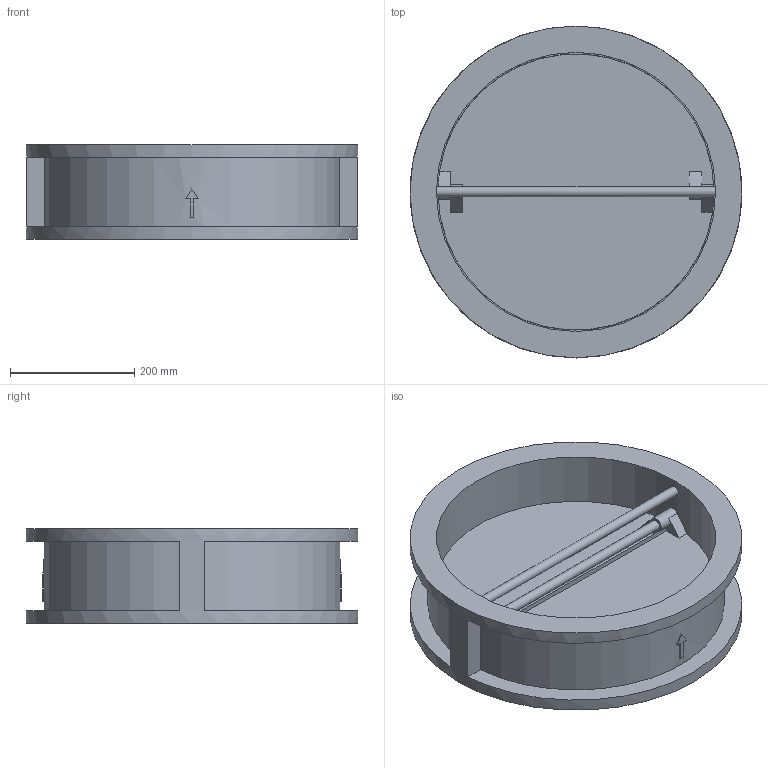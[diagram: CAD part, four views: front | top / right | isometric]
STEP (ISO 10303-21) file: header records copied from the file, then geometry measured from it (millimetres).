
FILE_DESCRIPTION(('STEP AP203'), '1');
FILE_NAME('孰囡囗 钺疣蝽 溻篚耱忸瘅囹 戾骠豚眦邂 010C DN450', '', ('UNSPECIFIED'), ('UNSPECIFIED'), 'ASCON STEP Converter 1.6', 'ASCON Math Kernel', '');
FILE_SCHEMA(('CONFIG_CONTROL_DESIGN'));
Length unit declared in the file: millimetre
Bounding box: 535 x 535 x 152 mm (x, y, z)
Volume: 8587293.3 mm3; surface area: 1090801.2 mm2
Topology: 1 solids, 1 shells, 77 faces, 207 edges, 136 vertices
Faces by surface type: plane 57, cylinder 16, cone 4
Full cylindrical faces by diameter (mm): 16 x4, 450 x1, 535 x1
Entity records: 4286 total; most frequent: CARTESIAN_POINT 1725, ORIENTED_EDGE 400, DIRECTION 374, EDGE_CURVE 200, VERTEX_POINT 136, LINE 126, VECTOR 126, AXIS2_PLACEMENT_3D 124
